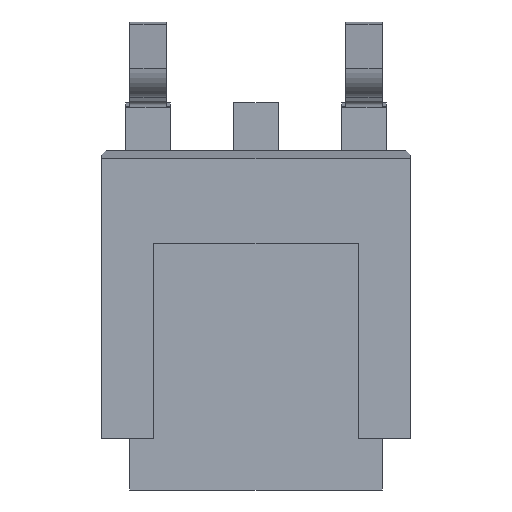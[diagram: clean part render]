
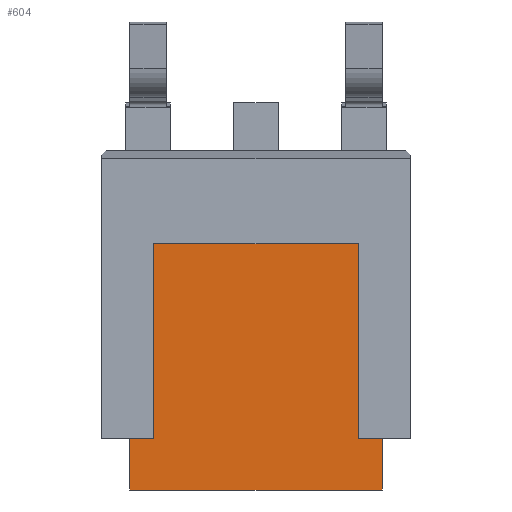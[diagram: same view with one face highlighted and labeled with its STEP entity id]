
A CAD part, front view. The second image highlights one B-rep face of the part: STEP entity #604.
In plain terms, the highlighted planar face has unit normal (0, -1, 0).
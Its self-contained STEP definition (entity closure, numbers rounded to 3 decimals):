
#23 = LINE ( 'NONE', #949, #1432 ) ;
#108 = EDGE_CURVE ( 'NONE', #738, #1651, #2013, .T. ) ;
#151 = VERTEX_POINT ( 'NONE', #636 ) ;
#174 = DIRECTION ( 'NONE',  ( 0., -1., 0. ) ) ;
#198 = EDGE_CURVE ( 'NONE', #151, #282, #1275, .T. ) ;
#252 = CARTESIAN_POINT ( 'NONE',  ( -2.67, 0., -4.955 ) ) ;
#254 = DIRECTION ( 'NONE',  ( -1., 0., 0. ) ) ;
#282 = VERTEX_POINT ( 'NONE', #860 ) ;
#283 = VERTEX_POINT ( 'NONE', #252 ) ;
#349 = ORIENTED_EDGE ( 'NONE', *, *, #1922, .T. ) ;
#377 = ORIENTED_EDGE ( 'NONE', *, *, #1654, .T. ) ;
#380 = LINE ( 'NONE', #1518, #448 ) ;
#384 = LINE ( 'NONE', #1704, #1857 ) ;
#420 = VECTOR ( 'NONE', #1162, 1000. ) ;
#439 = PLANE ( 'NONE',  #1863 ) ;
#448 = VECTOR ( 'NONE', #1658, 1000. ) ;
#468 = LINE ( 'NONE', #796, #1202 ) ;
#477 = CARTESIAN_POINT ( 'NONE',  ( -2.16, 0., -3.875 ) ) ;
#577 = CARTESIAN_POINT ( 'NONE',  ( 2.16, 0., -3.875 ) ) ;
#584 = VECTOR ( 'NONE', #2080, 1000. ) ;
#604 = ADVANCED_FACE ( 'NONE', ( #2088 ), #439, .T. ) ;
#636 = CARTESIAN_POINT ( 'NONE',  ( 2.67, 0., -3.875 ) ) ;
#669 = EDGE_CURVE ( 'NONE', #151, #1870, #23, .T. ) ;
#738 = VERTEX_POINT ( 'NONE', #477 ) ;
#752 = CARTESIAN_POINT ( 'NONE',  ( 2.16, 0., 0.255 ) ) ;
#775 = LINE ( 'NONE', #1034, #843 ) ;
#796 = CARTESIAN_POINT ( 'NONE',  ( -2.67, 0., -3.875 ) ) ;
#827 = DIRECTION ( 'NONE',  ( -1., 0., 0. ) ) ;
#843 = VECTOR ( 'NONE', #1021, 1000. ) ;
#860 = CARTESIAN_POINT ( 'NONE',  ( 2.67, 0., -4.955 ) ) ;
#885 = EDGE_LOOP ( 'NONE', ( #914, #1895, #1261, #1901, #1620, #377, #349, #1622 ) ) ;
#914 = ORIENTED_EDGE ( 'NONE', *, *, #1524, .F. ) ;
#942 = CARTESIAN_POINT ( 'NONE',  ( -3.27, 0., -3.875 ) ) ;
#946 = EDGE_CURVE ( 'NONE', #1870, #1160, #775, .T. ) ;
#949 = CARTESIAN_POINT ( 'NONE',  ( 3.27, 0., -3.875 ) ) ;
#1021 = DIRECTION ( 'NONE',  ( 0., 0., 1. ) ) ;
#1034 = CARTESIAN_POINT ( 'NONE',  ( 2.16, 0., -3.875 ) ) ;
#1083 = DIRECTION ( 'NONE',  ( -1., 0., 0. ) ) ;
#1093 = VERTEX_POINT ( 'NONE', #1585 ) ;
#1110 = LINE ( 'NONE', #1428, #420 ) ;
#1160 = VERTEX_POINT ( 'NONE', #752 ) ;
#1162 = DIRECTION ( 'NONE',  ( 1., 0., 0. ) ) ;
#1202 = VECTOR ( 'NONE', #1301, 1000. ) ;
#1261 = ORIENTED_EDGE ( 'NONE', *, *, #198, .F. ) ;
#1275 = LINE ( 'NONE', #1903, #584 ) ;
#1300 = VECTOR ( 'NONE', #827, 1000. ) ;
#1301 = DIRECTION ( 'NONE',  ( 0., 0., 1. ) ) ;
#1384 = CARTESIAN_POINT ( 'NONE',  ( -2.67, 0., -3.875 ) ) ;
#1428 = CARTESIAN_POINT ( 'NONE',  ( -3.07, 0., -4.955 ) ) ;
#1432 = VECTOR ( 'NONE', #1083, 1000. ) ;
#1470 = CARTESIAN_POINT ( 'NONE',  ( 0., 0., 0. ) ) ;
#1518 = CARTESIAN_POINT ( 'NONE',  ( -2.16, 0., -3.875 ) ) ;
#1524 = EDGE_CURVE ( 'NONE', #283, #1651, #468, .T. ) ;
#1585 = CARTESIAN_POINT ( 'NONE',  ( -2.16, 0., 0.255 ) ) ;
#1620 = ORIENTED_EDGE ( 'NONE', *, *, #946, .T. ) ;
#1622 = ORIENTED_EDGE ( 'NONE', *, *, #108, .T. ) ;
#1651 = VERTEX_POINT ( 'NONE', #1384 ) ;
#1654 = EDGE_CURVE ( 'NONE', #1160, #1093, #384, .T. ) ;
#1658 = DIRECTION ( 'NONE',  ( 0., 0., -1. ) ) ;
#1704 = CARTESIAN_POINT ( 'NONE',  ( -2.16, 0., 0.255 ) ) ;
#1720 = DIRECTION ( 'NONE',  ( 0., 0., -1. ) ) ;
#1857 = VECTOR ( 'NONE', #254, 1000. ) ;
#1863 = AXIS2_PLACEMENT_3D ( 'NONE', #1470, #174, #1720 ) ;
#1870 = VERTEX_POINT ( 'NONE', #577 ) ;
#1895 = ORIENTED_EDGE ( 'NONE', *, *, #1950, .T. ) ;
#1901 = ORIENTED_EDGE ( 'NONE', *, *, #669, .T. ) ;
#1903 = CARTESIAN_POINT ( 'NONE',  ( 2.67, 0., -3.875 ) ) ;
#1922 = EDGE_CURVE ( 'NONE', #1093, #738, #380, .T. ) ;
#1950 = EDGE_CURVE ( 'NONE', #283, #282, #1110, .T. ) ;
#2013 = LINE ( 'NONE', #942, #1300 ) ;
#2080 = DIRECTION ( 'NONE',  ( 0., 0., -1. ) ) ;
#2088 = FACE_OUTER_BOUND ( 'NONE', #885, .T. ) ;
